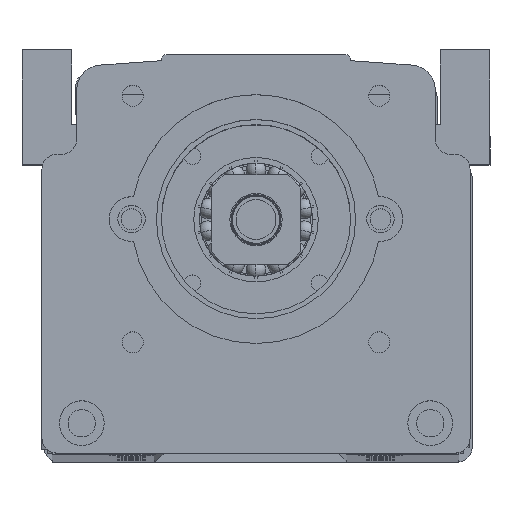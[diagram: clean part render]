
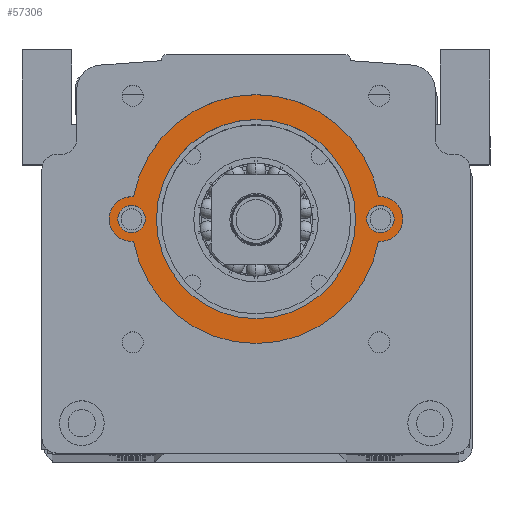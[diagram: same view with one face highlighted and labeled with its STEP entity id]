
A CAD part, top view. The second image highlights one B-rep face of the part: STEP entity #57306.
In plain terms, the highlighted planar face has unit normal (0, 0, 1).
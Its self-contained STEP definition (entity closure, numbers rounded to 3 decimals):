
#982 = DIRECTION ( 'NONE',  ( 0., 0., 1. ) ) ;
#1081 = DIRECTION ( 'NONE',  ( 0., 0., 1. ) ) ;
#2898 = CIRCLE ( 'NONE', #33840, 25. ) ;
#5015 = DIRECTION ( 'NONE',  ( 0., 0., 1. ) ) ;
#6126 = ORIENTED_EDGE ( 'NONE', *, *, #47480, .F. ) ;
#7658 = VERTEX_POINT ( 'NONE', #39908 ) ;
#7691 = CARTESIAN_POINT ( 'NONE',  ( -8.143, 5.327, 7. ) ) ;
#7869 = DIRECTION ( 'NONE',  ( 0., 0., 1. ) ) ;
#8556 = EDGE_CURVE ( 'NONE', #28172, #37386, #60482, .T. ) ;
#9532 = EDGE_CURVE ( 'NONE', #31576, #30883, #11863, .T. ) ;
#9840 = CARTESIAN_POINT ( 'NONE',  ( -30.393, 5.327, 7. ) ) ;
#11177 = DIRECTION ( 'NONE',  ( 0., 0., 1. ) ) ;
#11507 = EDGE_LOOP ( 'NONE', ( #20643, #51554 ) ) ;
#11863 = CIRCLE ( 'NONE', #36945, 4.5 ) ;
#11924 = PLANE ( 'NONE',  #38748 ) ;
#12274 = CIRCLE ( 'NONE', #32894, 2.75 ) ;
#12989 = CARTESIAN_POINT ( 'NONE',  ( -32.738, 9.808, 7. ) ) ;
#13145 = DIRECTION ( 'NONE',  ( 1., 0., 0. ) ) ;
#14316 = FACE_BOUND ( 'NONE', #11507, .T. ) ;
#14415 = CARTESIAN_POINT ( 'NONE',  ( 16.857, 5.327, 7. ) ) ;
#14738 = VERTEX_POINT ( 'NONE', #59376 ) ;
#17408 = CARTESIAN_POINT ( 'NONE',  ( 16.452, 9.808, 7. ) ) ;
#17642 = DIRECTION ( 'NONE',  ( 0., 0., 1. ) ) ;
#17777 = EDGE_CURVE ( 'NONE', #37386, #28172, #37486, .T. ) ;
#18457 = CARTESIAN_POINT ( 'NONE',  ( -33.143, 5.327, 7. ) ) ;
#19453 = ORIENTED_EDGE ( 'NONE', *, *, #34966, .T. ) ;
#19682 = DIRECTION ( 'NONE',  ( 0., 0., 1. ) ) ;
#19832 = EDGE_LOOP ( 'NONE', ( #38599, #70072 ) ) ;
#19902 = DIRECTION ( 'NONE',  ( 1., 0., 0. ) ) ;
#20643 = ORIENTED_EDGE ( 'NONE', *, *, #40659, .F. ) ;
#21374 = CARTESIAN_POINT ( 'NONE',  ( 14.107, 5.327, 7. ) ) ;
#21549 = DIRECTION ( 'NONE',  ( 0., 0., 1. ) ) ;
#21717 = EDGE_LOOP ( 'NONE', ( #47704, #6126 ) ) ;
#23629 = VERTEX_POINT ( 'NONE', #47429 ) ;
#25083 = CIRCLE ( 'NONE', #51141, 20. ) ;
#25798 = AXIS2_PLACEMENT_3D ( 'NONE', #7691, #45702, #13145 ) ;
#27283 = ORIENTED_EDGE ( 'NONE', *, *, #48218, .T. ) ;
#27367 = VERTEX_POINT ( 'NONE', #12989 ) ;
#27986 = ORIENTED_EDGE ( 'NONE', *, *, #48530, .T. ) ;
#28172 = VERTEX_POINT ( 'NONE', #46163 ) ;
#28437 = DIRECTION ( 'NONE',  ( 0., 0., 1. ) ) ;
#29233 = DIRECTION ( 'NONE',  ( 1., 0., 0. ) ) ;
#29832 = VERTEX_POINT ( 'NONE', #9840 ) ;
#30092 = AXIS2_PLACEMENT_3D ( 'NONE', #14415, #52500, #19902 ) ;
#30883 = VERTEX_POINT ( 'NONE', #17408 ) ;
#31576 = VERTEX_POINT ( 'NONE', #45107 ) ;
#32894 = AXIS2_PLACEMENT_3D ( 'NONE', #33669, #1081, #39129 ) ;
#33577 = CARTESIAN_POINT ( 'NONE',  ( 16.857, 5.327, 7. ) ) ;
#33669 = CARTESIAN_POINT ( 'NONE',  ( -33.143, 5.327, 7. ) ) ;
#33840 = AXIS2_PLACEMENT_3D ( 'NONE', #37588, #5015, #43047 ) ;
#34670 = CARTESIAN_POINT ( 'NONE',  ( 16.452, 0.845, 7. ) ) ;
#34771 = ORIENTED_EDGE ( 'NONE', *, *, #9532, .T. ) ;
#34966 = EDGE_CURVE ( 'NONE', #67338, #31576, #38764, .T. ) ;
#36146 = AXIS2_PLACEMENT_3D ( 'NONE', #40431, #7869, #45876 ) ;
#36945 = AXIS2_PLACEMENT_3D ( 'NONE', #43768, #11177, #49262 ) ;
#37386 = VERTEX_POINT ( 'NONE', #21374 ) ;
#37486 = CIRCLE ( 'NONE', #64175, 2.75 ) ;
#37588 = CARTESIAN_POINT ( 'NONE',  ( -8.143, 5.327, 7. ) ) ;
#38599 = ORIENTED_EDGE ( 'NONE', *, *, #17777, .F. ) ;
#38748 = AXIS2_PLACEMENT_3D ( 'NONE', #60714, #17642, #55723 ) ;
#38764 = CIRCLE ( 'NONE', #62096, 4.5 ) ;
#39049 = DIRECTION ( 'NONE',  ( 1., 0., 0. ) ) ;
#39129 = DIRECTION ( 'NONE',  ( 1., 0., 0. ) ) ;
#39908 = CARTESIAN_POINT ( 'NONE',  ( -28.143, 5.327, 7. ) ) ;
#40431 = CARTESIAN_POINT ( 'NONE',  ( -33.143, 5.327, 7. ) ) ;
#40659 = EDGE_CURVE ( 'NONE', #40849, #29832, #59718, .T. ) ;
#40849 = VERTEX_POINT ( 'NONE', #52054 ) ;
#41447 = AXIS2_PLACEMENT_3D ( 'NONE', #52288, #19682, #57758 ) ;
#41549 = FACE_BOUND ( 'NONE', #21717, .T. ) ;
#43047 = DIRECTION ( 'NONE',  ( 1., 0., 0. ) ) ;
#43768 = CARTESIAN_POINT ( 'NONE',  ( 16.857, 5.327, 7. ) ) ;
#44482 = ORIENTED_EDGE ( 'NONE', *, *, #68076, .T. ) ;
#45107 = CARTESIAN_POINT ( 'NONE',  ( 21.357, 5.327, 7. ) ) ;
#45702 = DIRECTION ( 'NONE',  ( 0., 0., 1. ) ) ;
#45876 = DIRECTION ( 'NONE',  ( 1., 0., 0. ) ) ;
#46163 = CARTESIAN_POINT ( 'NONE',  ( 19.607, 5.327, 7. ) ) ;
#47429 = CARTESIAN_POINT ( 'NONE',  ( -32.738, 0.845, 7. ) ) ;
#47459 = EDGE_CURVE ( 'NONE', #29832, #40849, #12274, .T. ) ;
#47480 = EDGE_CURVE ( 'NONE', #14738, #7658, #25083, .T. ) ;
#47704 = ORIENTED_EDGE ( 'NONE', *, *, #56565, .F. ) ;
#48218 = EDGE_CURVE ( 'NONE', #30883, #27367, #2898, .T. ) ;
#48530 = EDGE_CURVE ( 'NONE', #27367, #23629, #59847, .T. ) ;
#49262 = DIRECTION ( 'NONE',  ( 1., 0., 0. ) ) ;
#51141 = AXIS2_PLACEMENT_3D ( 'NONE', #61020, #28437, #66497 ) ;
#51554 = ORIENTED_EDGE ( 'NONE', *, *, #47459, .F. ) ;
#52054 = CARTESIAN_POINT ( 'NONE',  ( -35.893, 5.327, 7. ) ) ;
#52288 = CARTESIAN_POINT ( 'NONE',  ( -8.143, 5.327, 7. ) ) ;
#52500 = DIRECTION ( 'NONE',  ( 0., 0., 1. ) ) ;
#52532 = CIRCLE ( 'NONE', #25798, 25. ) ;
#54144 = CARTESIAN_POINT ( 'NONE',  ( 16.857, 5.327, 7. ) ) ;
#55723 = DIRECTION ( 'NONE',  ( 1., 0., 0. ) ) ;
#56034 = FACE_BOUND ( 'NONE', #19832, .T. ) ;
#56536 = DIRECTION ( 'NONE',  ( 0., 0., 1. ) ) ;
#56565 = EDGE_CURVE ( 'NONE', #7658, #14738, #63749, .T. ) ;
#57306 = ADVANCED_FACE ( 'NONE', ( #14316, #70467, #56034, #41549 ), #11924, .T. ) ;
#57758 = DIRECTION ( 'NONE',  ( 1., 0., 0. ) ) ;
#59376 = CARTESIAN_POINT ( 'NONE',  ( 11.857, 5.327, 7. ) ) ;
#59602 = DIRECTION ( 'NONE',  ( 1., 0., 0. ) ) ;
#59718 = CIRCLE ( 'NONE', #65964, 2.75 ) ;
#59847 = CIRCLE ( 'NONE', #36146, 4.5 ) ;
#60482 = CIRCLE ( 'NONE', #30092, 2.75 ) ;
#60714 = CARTESIAN_POINT ( 'NONE',  ( -33.143, 5.327, 7. ) ) ;
#61020 = CARTESIAN_POINT ( 'NONE',  ( -8.143, 5.327, 7. ) ) ;
#62096 = AXIS2_PLACEMENT_3D ( 'NONE', #54144, #21549, #59602 ) ;
#63749 = CIRCLE ( 'NONE', #41447, 20. ) ;
#64175 = AXIS2_PLACEMENT_3D ( 'NONE', #33577, #982, #39049 ) ;
#65964 = AXIS2_PLACEMENT_3D ( 'NONE', #18457, #56536, #29233 ) ;
#66497 = DIRECTION ( 'NONE',  ( 1., 0., 0. ) ) ;
#67108 = EDGE_LOOP ( 'NONE', ( #27986, #44482, #19453, #34771, #27283 ) ) ;
#67338 = VERTEX_POINT ( 'NONE', #34670 ) ;
#68076 = EDGE_CURVE ( 'NONE', #23629, #67338, #52532, .T. ) ;
#70072 = ORIENTED_EDGE ( 'NONE', *, *, #8556, .F. ) ;
#70467 = FACE_OUTER_BOUND ( 'NONE', #67108, .T. ) ;
